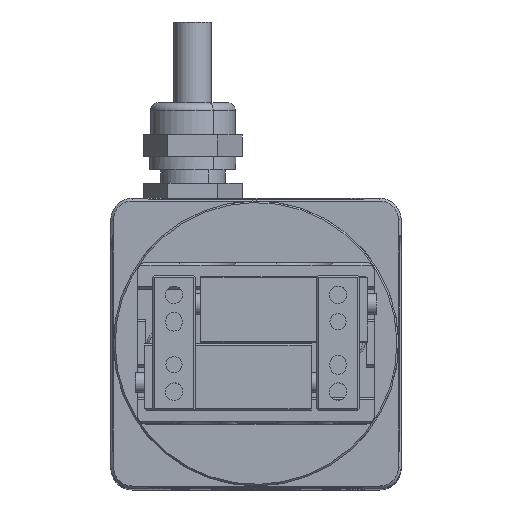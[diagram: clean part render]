
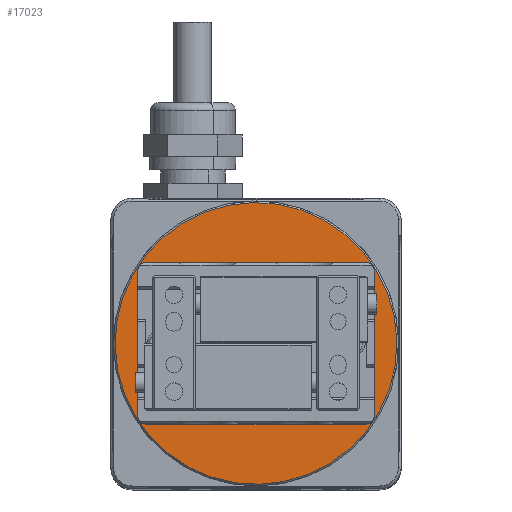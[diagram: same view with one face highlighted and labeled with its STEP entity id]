
A CAD part, top view. The second image highlights one B-rep face of the part: STEP entity #17023.
In plain terms, the highlighted planar face has unit normal (0, 0, 1).
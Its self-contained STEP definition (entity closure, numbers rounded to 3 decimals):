
#15009=CARTESIAN_POINT('Vertex',(-20.5,15.,124.7)) ;
#15035=CARTESIAN_POINT('Vertex',(20.5,15.,124.7)) ;
#15038=CARTESIAN_POINT('Line Origine',(0.,15.,124.7)) ;
#15331=CARTESIAN_POINT('Vertex',(20.5,-15.,124.7)) ;
#15345=CARTESIAN_POINT('Vertex',(-20.5,-15.,124.7)) ;
#15348=CARTESIAN_POINT('Line Origine',(0.,-15.,124.7)) ;
#15519=CARTESIAN_POINT('Vertex',(22.,13.5,124.7)) ;
#15522=CARTESIAN_POINT('Axis2P3D Location',(20.5,13.5,124.7)) ;
#15547=CARTESIAN_POINT('Axis2P3D Location',(20.5,-13.5,124.7)) ;
#15551=CARTESIAN_POINT('Vertex',(22.,-13.5,124.7)) ;
#15579=CARTESIAN_POINT('Axis2P3D Location',(-20.5,13.5,124.7)) ;
#15583=CARTESIAN_POINT('Vertex',(-22.,13.5,124.7)) ;
#16513=CARTESIAN_POINT('Vertex',(-22.,-13.5,124.7)) ;
#16516=CARTESIAN_POINT('Axis2P3D Location',(-20.5,-13.5,124.7)) ;
#16560=CARTESIAN_POINT('Line Origine',(22.,0.,124.7)) ;
#16649=CARTESIAN_POINT('Line Origine',(-22.,0.,124.7)) ;
#16715=CARTESIAN_POINT('Vertex',(12.561,22.993,124.7)) ;
#16718=CARTESIAN_POINT('Axis2P3D Location',(0.,0.,124.7)) ;
#16722=CARTESIAN_POINT('Vertex',(-12.561,-22.993,124.7)) ;
#16749=CARTESIAN_POINT('Axis2P3D Location',(0.,0.,124.7)) ;
#17004=CARTESIAN_POINT('Axis2P3D Location',(0.,26.5,124.7)) ;
#15039=DIRECTION('Vector Direction',(1.,0.,0.)) ;
#15349=DIRECTION('Vector Direction',(-1.,0.,0.)) ;
#15523=DIRECTION('Axis2P3D Direction',(0.,0.,1.)) ;
#15548=DIRECTION('Axis2P3D Direction',(0.,0.,1.)) ;
#15580=DIRECTION('Axis2P3D Direction',(0.,0.,1.)) ;
#16517=DIRECTION('Axis2P3D Direction',(0.,0.,1.)) ;
#16561=DIRECTION('Vector Direction',(0.,-1.,0.)) ;
#16650=DIRECTION('Vector Direction',(0.,1.,0.)) ;
#16719=DIRECTION('Axis2P3D Direction',(0.,0.,-1.)) ;
#16750=DIRECTION('Axis2P3D Direction',(0.,0.,-1.)) ;
#17005=DIRECTION('Axis2P3D Direction',(0.,0.,-1.)) ;
#17006=DIRECTION('Axis2P3D XDirection',(1.,0.,0.)) ;
#15524=AXIS2_PLACEMENT_3D('Circle Axis2P3D',#15522,#15523,$) ;
#15549=AXIS2_PLACEMENT_3D('Circle Axis2P3D',#15547,#15548,$) ;
#15581=AXIS2_PLACEMENT_3D('Circle Axis2P3D',#15579,#15580,$) ;
#16518=AXIS2_PLACEMENT_3D('Circle Axis2P3D',#16516,#16517,$) ;
#16720=AXIS2_PLACEMENT_3D('Circle Axis2P3D',#16718,#16719,$) ;
#16751=AXIS2_PLACEMENT_3D('Circle Axis2P3D',#16749,#16750,$) ;
#17007=AXIS2_PLACEMENT_3D('Plane Axis2P3D',#17004,#17005,#17006) ;
#17010=ORIENTED_EDGE('',*,*,#16753,.F.) ;
#17011=ORIENTED_EDGE('',*,*,#16724,.F.) ;
#17014=ORIENTED_EDGE('',*,*,#16653,.F.) ;
#17015=ORIENTED_EDGE('',*,*,#15585,.F.) ;
#17016=ORIENTED_EDGE('',*,*,#15042,.F.) ;
#17017=ORIENTED_EDGE('',*,*,#15526,.F.) ;
#17018=ORIENTED_EDGE('',*,*,#16564,.F.) ;
#17019=ORIENTED_EDGE('',*,*,#15553,.F.) ;
#17020=ORIENTED_EDGE('',*,*,#15352,.F.) ;
#17021=ORIENTED_EDGE('',*,*,#16520,.F.) ;
#17022=FACE_BOUND('',#17013,.T.) ;
#15040=VECTOR('Line Direction',#15039,1.) ;
#15350=VECTOR('Line Direction',#15349,1.) ;
#16562=VECTOR('Line Direction',#16561,1.) ;
#16651=VECTOR('Line Direction',#16650,1.) ;
#17023=ADVANCED_FACE('\X2\96F64EF651E04F554F53\X0\',(#17012,#17022),#17008,.F.) ;
#15525=CIRCLE('generated circle',#15524,1.5) ;
#15550=CIRCLE('generated circle',#15549,1.5) ;
#15582=CIRCLE('generated circle',#15581,1.5) ;
#16519=CIRCLE('generated circle',#16518,1.5) ;
#16721=CIRCLE('generated circle',#16720,26.2) ;
#16752=CIRCLE('generated circle',#16751,26.2) ;
#15042=EDGE_CURVE('',#15036,#15010,#15041,.F.) ;
#15352=EDGE_CURVE('',#15346,#15332,#15351,.F.) ;
#15526=EDGE_CURVE('',#15520,#15036,#15525,.T.) ;
#15553=EDGE_CURVE('',#15332,#15552,#15550,.T.) ;
#15585=EDGE_CURVE('',#15010,#15584,#15582,.T.) ;
#16520=EDGE_CURVE('',#16514,#15346,#16519,.T.) ;
#16564=EDGE_CURVE('',#15552,#15520,#16563,.F.) ;
#16653=EDGE_CURVE('',#15584,#16514,#16652,.F.) ;
#16724=EDGE_CURVE('',#16716,#16723,#16721,.T.) ;
#16753=EDGE_CURVE('',#16723,#16716,#16752,.T.) ;
#17009=EDGE_LOOP('',(#17010,#17011)) ;
#17013=EDGE_LOOP('',(#17014,#17015,#17016,#17017,#17018,#17019,#17020,#17021)) ;
#17012=FACE_OUTER_BOUND('',#17009,.T.) ;
#15041=LINE('Line',#15038,#15040) ;
#15351=LINE('Line',#15348,#15350) ;
#16563=LINE('Line',#16560,#16562) ;
#16652=LINE('Line',#16649,#16651) ;
#17008=PLANE('Plane',#17007) ;
#15010=VERTEX_POINT('',#15009) ;
#15036=VERTEX_POINT('',#15035) ;
#15332=VERTEX_POINT('',#15331) ;
#15346=VERTEX_POINT('',#15345) ;
#15520=VERTEX_POINT('',#15519) ;
#15552=VERTEX_POINT('',#15551) ;
#15584=VERTEX_POINT('',#15583) ;
#16514=VERTEX_POINT('',#16513) ;
#16716=VERTEX_POINT('',#16715) ;
#16723=VERTEX_POINT('',#16722) ;
